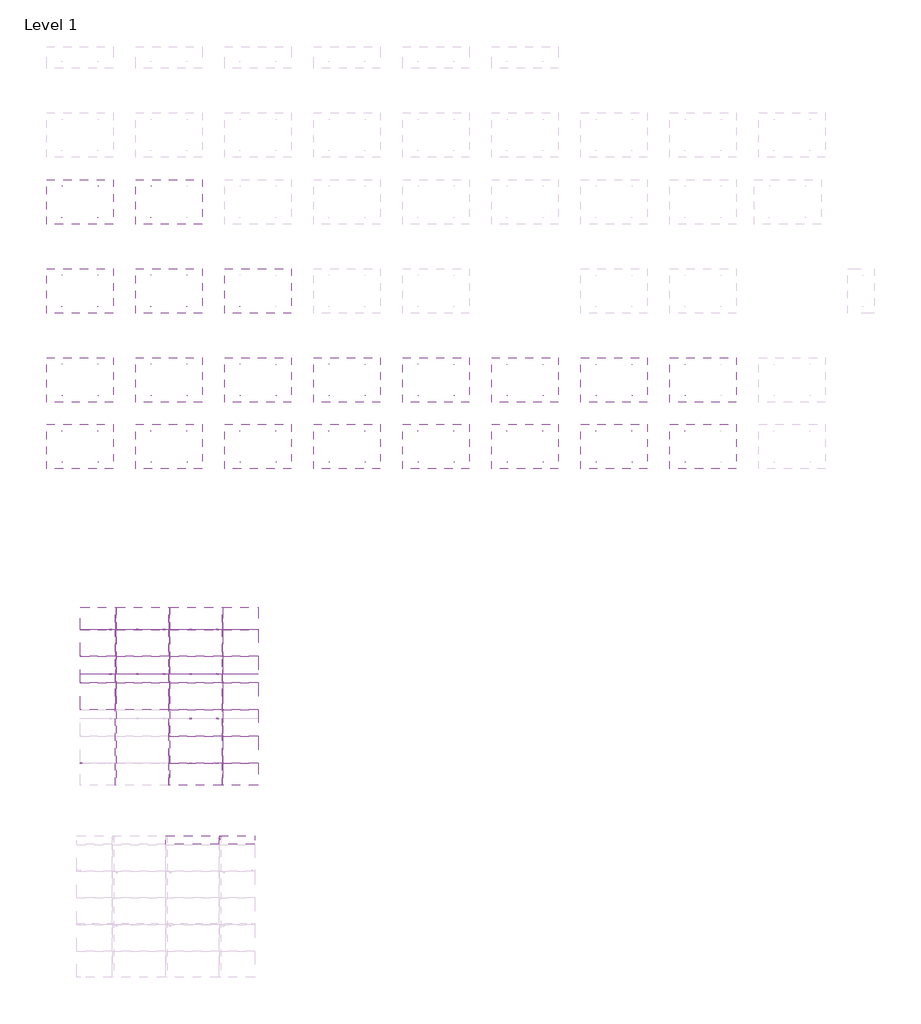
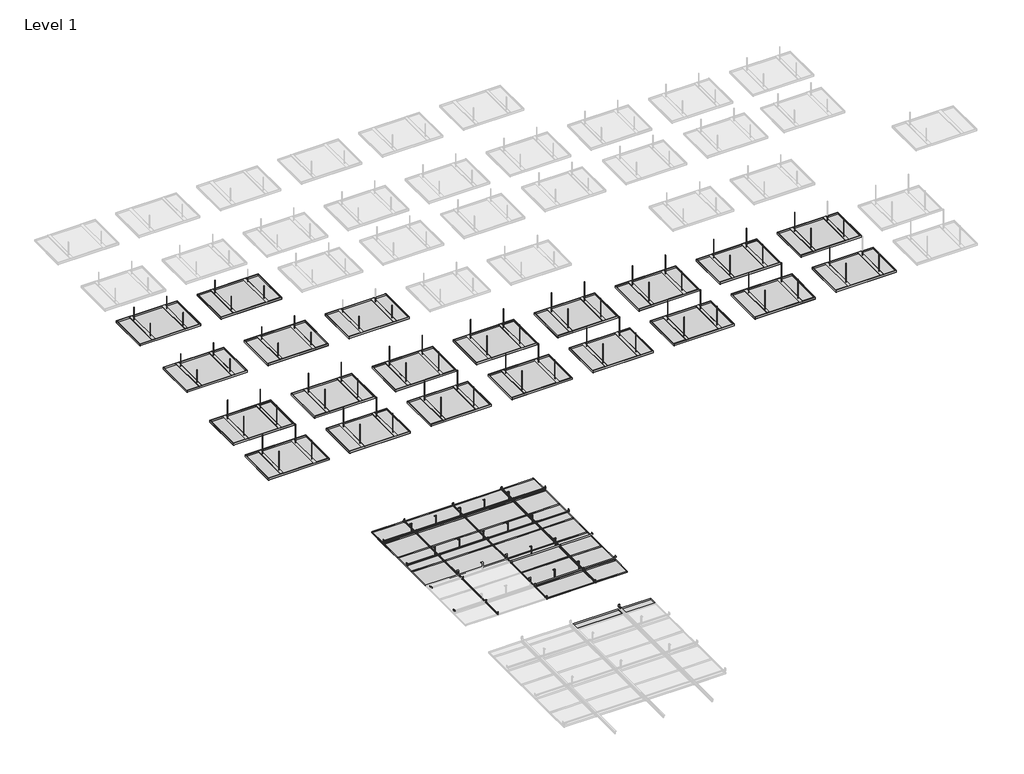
# One storey, part 16 of 32: 141 proxies.
"""IFC4 building model written with IfcOpenShell, lengths in millimetres."""

from ifc_helpers import new_model, si_unit, origin, place, context, project, spatial, transform, mapped, element, save
from components import generic_models_f96a42b3, generic_models_b01e0852, generic_models_9e26d455, generic_models_931bb0da, generic_models_4f62446b, generic_models_777941b1, generic_models_a2e92584, generic_models_f1efeb4e, generic_models_413290ff, generic_models_ee162b96, generic_models_9e18e937, generic_models_38625c8c, generic_models_85b4ffa8, generic_models_f9f24abc

model = new_model("IFC4")

# Units and contexts
model_context = context("Model", 3, world=origin())
ifc_project = project(units=[si_unit("LENGTHUNIT", "METRE", prefix="MILLI")], contexts=[model_context])

# Site, building, storey
site = spatial("IfcSite", under=ifc_project)
building = spatial("IfcBuilding", under=site)
storey = spatial("IfcBuildingStorey", under=building, Name="Level 1", Elevation=0.0)

# Proxies
placement = place(None, origin())
generic_models_shape = generic_models_f96a42b3(model_context)
element("IfcBuildingElementProxy", 1, Name="durlum_S4_panel : durlum_S4_panel_wall_width_cut", ObjectType="durlum_S4_panel : durlum_S4_panel_wall_width_cut", at=placement, inside=storey, context=model_context, shape_type="MappedRepresentation", body=[
    mapped(generic_models_shape, transform((-43697.4152168, 5018.9203868, 3700.0), x_axis=(1.0, 0.0, 0.0), y_axis=(0.0, 1.0, 0.0), z_axis=(0.0, 0.0, 1.0))),
])
generic_models_2_shape = generic_models_b01e0852(model_context)
element("IfcBuildingElementProxy", 2, Name="durlum_S4_panel : durlum_S4_panel_wall_corner", ObjectType="durlum_S4_panel : durlum_S4_panel_wall_corner", at=placement, inside=storey, context=model_context, shape_type="MappedRepresentation", body=[
    mapped(generic_models_2_shape, transform((-42697.4152168, 5018.9203868, 3700.0), x_axis=(1.0, 0.0, 0.0), y_axis=(0.0, 1.0, 0.0), z_axis=(0.0, 0.0, 1.0))),
])
generic_models_3_shape = generic_models_9e26d455(model_context)
element("IfcBuildingElementProxy", 3, Name="durlum_S1_RHOMBOS : durlum_S1_RHOMBOS", ObjectType="durlum_S1_RHOMBOS : durlum_S1_RHOMBOS", at=placement, inside=storey, context=model_context, shape_type="MappedRepresentation", body=[
    mapped(generic_models_3_shape, transform((-44221.0989201, 8249.4221747, 0.0), x_axis=(1.0, 0.0, 0.0), y_axis=(0.0, 1.0, 0.0), z_axis=(0.0, 0.0, 1.0))),
])
generic_models_4_shape = generic_models_931bb0da(model_context)
element("IfcBuildingElementProxy", 4, Name="durlum_S1_RHOMBOS_panel : durlum_S1_RHOMBOS_panel", ObjectType="durlum_S1_RHOMBOS_panel : durlum_S1_RHOMBOS_panel", at=placement, inside=storey, context=model_context, shape_type="MappedRepresentation", body=[
    mapped(generic_models_4_shape, transform((-43621.0989201, 7649.4221747, 3700.0), x_axis=(1.0, 0.0, 0.0), y_axis=(0.0, 1.0, 0.0), z_axis=(0.0, 0.0, 1.0))),
])
element("IfcBuildingElementProxy", 5, Name="durlum_S1_RHOMBOS_panel : durlum_S1_RHOMBOS_panel", ObjectType="durlum_S1_RHOMBOS_panel : durlum_S1_RHOMBOS_panel", at=placement, inside=storey, context=model_context, shape_type="MappedRepresentation", body=[
    mapped(generic_models_4_shape, transform((-44821.0989201, 8249.4221747, 3700.0), x_axis=(1.0, 0.0, 0.0), y_axis=(0.0, 1.0, 0.0), z_axis=(0.0, 0.0, 1.0))),
])
element("IfcBuildingElementProxy", 6, Name="durlum_S1_RHOMBOS_panel : durlum_S1_RHOMBOS_panel", ObjectType="durlum_S1_RHOMBOS_panel : durlum_S1_RHOMBOS_panel", at=placement, inside=storey, context=model_context, shape_type="MappedRepresentation", body=[
    mapped(generic_models_4_shape, transform((-43621.0989201, 8249.4221747, 3700.0), x_axis=(1.0, 0.0, 0.0), y_axis=(0.0, 1.0, 0.0), z_axis=(0.0, 0.0, 1.0))),
])
element("IfcBuildingElementProxy", 7, Name="durlum_S1_RHOMBOS_panel : durlum_S1_RHOMBOS_panel", ObjectType="durlum_S1_RHOMBOS_panel : durlum_S1_RHOMBOS_panel", at=placement, inside=storey, context=model_context, shape_type="MappedRepresentation", body=[
    mapped(generic_models_4_shape, transform((-44821.0989201, 8849.4221747, 3700.0), x_axis=(1.0, 0.0, 0.0), y_axis=(0.0, 1.0, 0.0), z_axis=(0.0, 0.0, 1.0))),
])
element("IfcBuildingElementProxy", 8, Name="durlum_S1_RHOMBOS_panel : durlum_S1_RHOMBOS_panel", ObjectType="durlum_S1_RHOMBOS_panel : durlum_S1_RHOMBOS_panel", at=placement, inside=storey, context=model_context, shape_type="MappedRepresentation", body=[
    mapped(generic_models_4_shape, transform((-43621.0989201, 8849.4221747, 3700.0), x_axis=(1.0, 0.0, 0.0), y_axis=(0.0, 1.0, 0.0), z_axis=(0.0, 0.0, 1.0))),
])
element("IfcBuildingElementProxy", 9, Name="durlum_S1_RHOMBOS_panel : durlum_S1_RHOMBOS_panel", ObjectType="durlum_S1_RHOMBOS_panel : durlum_S1_RHOMBOS_panel", at=placement, inside=storey, context=model_context, shape_type="MappedRepresentation", body=[
    mapped(generic_models_4_shape, transform((-43621.0989201, 7049.4221747, 3700.0), x_axis=(1.0, 0.0, 0.0), y_axis=(0.0, 1.0, 0.0), z_axis=(0.0, 0.0, 1.0))),
])
element("IfcBuildingElementProxy", 10, Name="durlum_S1_RHOMBOS_panel : durlum_S1_RHOMBOS_panel", ObjectType="durlum_S1_RHOMBOS_panel : durlum_S1_RHOMBOS_panel", at=placement, inside=storey, context=model_context, shape_type="MappedRepresentation", body=[
    mapped(generic_models_4_shape, transform((-44821.0989201, 9449.4221747, 3700.0), x_axis=(1.0, 0.0, 0.0), y_axis=(0.0, 1.0, 0.0), z_axis=(0.0, 0.0, 1.0))),
])
element("IfcBuildingElementProxy", 11, Name="durlum_S1_RHOMBOS_panel : durlum_S1_RHOMBOS_panel", ObjectType="durlum_S1_RHOMBOS_panel : durlum_S1_RHOMBOS_panel", at=placement, inside=storey, context=model_context, shape_type="MappedRepresentation", body=[
    mapped(generic_models_4_shape, transform((-43621.0989201, 9449.4221747, 3700.0), x_axis=(1.0, 0.0, 0.0), y_axis=(0.0, 1.0, 0.0), z_axis=(0.0, 0.0, 1.0))),
])
generic_models_5_shape = generic_models_4f62446b(model_context)
element("IfcBuildingElementProxy", 12, Name="durlum_S1_RHOMBOS_panel : durlum_S1_RHOMBOS_panel_wall_length_cut", ObjectType="durlum_S1_RHOMBOS_panel : durlum_S1_RHOMBOS_panel_wall_length_cut", at=placement, inside=storey, context=model_context, shape_type="MappedRepresentation", body=[
    mapped(generic_models_5_shape, transform((-42621.0989201, 7649.4221747, 3700.0), x_axis=(1.0, 0.0, 0.0), y_axis=(0.0, 1.0, 0.0), z_axis=(0.0, 0.0, 1.0))),
])
element("IfcBuildingElementProxy", 13, Name="durlum_S1_RHOMBOS_panel : durlum_S1_RHOMBOS_panel_wall_length_cut", ObjectType="durlum_S1_RHOMBOS_panel : durlum_S1_RHOMBOS_panel_wall_length_cut", at=placement, inside=storey, context=model_context, shape_type="MappedRepresentation", body=[
    mapped(generic_models_5_shape, transform((-45821.0989201, 8249.4221747, 3700.0), x_axis=(1.0, 0.0, 0.0), y_axis=(0.0, 1.0, 0.0), z_axis=(0.0, 0.0, 1.0))),
])
element("IfcBuildingElementProxy", 14, Name="durlum_S1_RHOMBOS_panel : durlum_S1_RHOMBOS_panel_wall_length_cut", ObjectType="durlum_S1_RHOMBOS_panel : durlum_S1_RHOMBOS_panel_wall_length_cut", at=placement, inside=storey, context=model_context, shape_type="MappedRepresentation", body=[
    mapped(generic_models_5_shape, transform((-42621.0989201, 8249.4221747, 3700.0), x_axis=(1.0, 0.0, 0.0), y_axis=(0.0, 1.0, 0.0), z_axis=(0.0, 0.0, 1.0))),
])
element("IfcBuildingElementProxy", 15, Name="durlum_S1_RHOMBOS_panel : durlum_S1_RHOMBOS_panel_wall_length_cut", ObjectType="durlum_S1_RHOMBOS_panel : durlum_S1_RHOMBOS_panel_wall_length_cut", at=placement, inside=storey, context=model_context, shape_type="MappedRepresentation", body=[
    mapped(generic_models_5_shape, transform((-45821.0989201, 8849.4221747, 3700.0), x_axis=(1.0, 0.0, 0.0), y_axis=(0.0, 1.0, 0.0), z_axis=(0.0, 0.0, 1.0))),
])
element("IfcBuildingElementProxy", 16, Name="durlum_S1_RHOMBOS_panel : durlum_S1_RHOMBOS_panel_wall_length_cut", ObjectType="durlum_S1_RHOMBOS_panel : durlum_S1_RHOMBOS_panel_wall_length_cut", at=placement, inside=storey, context=model_context, shape_type="MappedRepresentation", body=[
    mapped(generic_models_5_shape, transform((-42621.0989201, 8849.4221747, 3700.0), x_axis=(1.0, 0.0, 0.0), y_axis=(0.0, 1.0, 0.0), z_axis=(0.0, 0.0, 1.0))),
])
element("IfcBuildingElementProxy", 17, Name="durlum_S1_RHOMBOS_panel : durlum_S1_RHOMBOS_panel_wall_length_cut", ObjectType="durlum_S1_RHOMBOS_panel : durlum_S1_RHOMBOS_panel_wall_length_cut", at=placement, inside=storey, context=model_context, shape_type="MappedRepresentation", body=[
    mapped(generic_models_5_shape, transform((-42621.0989201, 7049.4221747, 3700.0), x_axis=(1.0, 0.0, 0.0), y_axis=(0.0, 1.0, 0.0), z_axis=(0.0, 0.0, 1.0))),
])
element("IfcBuildingElementProxy", 18, Name="durlum_S1_RHOMBOS_panel : durlum_S1_RHOMBOS_panel_wall_length_cut", ObjectType="durlum_S1_RHOMBOS_panel : durlum_S1_RHOMBOS_panel_wall_length_cut", at=placement, inside=storey, context=model_context, shape_type="MappedRepresentation", body=[
    mapped(generic_models_5_shape, transform((-42621.0989201, 9449.4221747, 3700.0), x_axis=(1.0, 0.0, 0.0), y_axis=(0.0, 1.0, 0.0), z_axis=(0.0, 0.0, 1.0))),
])
element("IfcBuildingElementProxy", 19, Name="durlum_S1_RHOMBOS_panel : durlum_S1_RHOMBOS_panel_wall_length_cut", ObjectType="durlum_S1_RHOMBOS_panel : durlum_S1_RHOMBOS_panel_wall_length_cut", at=placement, inside=storey, context=model_context, shape_type="MappedRepresentation", body=[
    mapped(generic_models_5_shape, transform((-45821.0989201, 9449.4221747, 3700.0), x_axis=(1.0, 0.0, 0.0), y_axis=(0.0, 1.0, 0.0), z_axis=(0.0, 0.0, 1.0))),
])
generic_models_6_shape = generic_models_777941b1(model_context)
element("IfcBuildingElementProxy", 20, Name="durlum_S1_RHOMBOS_panel : durlum_S1_RHOMBOS_panel_wall_width_cut", ObjectType="durlum_S1_RHOMBOS_panel : durlum_S1_RHOMBOS_panel_wall_width_cut", at=placement, inside=storey, context=model_context, shape_type="MappedRepresentation", body=[
    mapped(generic_models_6_shape, transform((-43621.0989201, 6499.4221747, 3700.0), x_axis=(1.0, 0.0, 0.0), y_axis=(0.0, 1.0, 0.0), z_axis=(0.0, 0.0, 1.0))),
])
element("IfcBuildingElementProxy", 21, Name="durlum_S1_RHOMBOS_panel : durlum_S1_RHOMBOS_panel_wall_width_cut", ObjectType="durlum_S1_RHOMBOS_panel : durlum_S1_RHOMBOS_panel_wall_width_cut", at=placement, inside=storey, context=model_context, shape_type="MappedRepresentation", body=[
    mapped(generic_models_6_shape, transform((-43621.0989201, 9999.4221747, 3700.0), x_axis=(1.0, 0.0, 0.0), y_axis=(0.0, 1.0, 0.0), z_axis=(0.0, 0.0, 1.0))),
])
element("IfcBuildingElementProxy", 22, Name="durlum_S1_RHOMBOS_panel : durlum_S1_RHOMBOS_panel_wall_width_cut", ObjectType="durlum_S1_RHOMBOS_panel : durlum_S1_RHOMBOS_panel_wall_width_cut", at=placement, inside=storey, context=model_context, shape_type="MappedRepresentation", body=[
    mapped(generic_models_6_shape, transform((-44821.0989201, 9999.4221747, 3700.0), x_axis=(1.0, 0.0, 0.0), y_axis=(0.0, 1.0, 0.0), z_axis=(0.0, 0.0, 1.0))),
])
generic_models_7_shape = generic_models_a2e92584(model_context)
element("IfcBuildingElementProxy", 23, Name="durlum_S1_RHOMBOS_panel : durlum_S1_RHOMBOS_panel_wall_corner", ObjectType="durlum_S1_RHOMBOS_panel : durlum_S1_RHOMBOS_panel_wall_corner", at=placement, inside=storey, context=model_context, shape_type="MappedRepresentation", body=[
    mapped(generic_models_7_shape, transform((-42621.0989201, 6499.4221747, 3700.0), x_axis=(1.0, 0.0, 0.0), y_axis=(0.0, 1.0, 0.0), z_axis=(0.0, 0.0, 1.0))),
])
element("IfcBuildingElementProxy", 24, Name="durlum_S1_RHOMBOS_panel : durlum_S1_RHOMBOS_panel_wall_corner", ObjectType="durlum_S1_RHOMBOS_panel : durlum_S1_RHOMBOS_panel_wall_corner", at=placement, inside=storey, context=model_context, shape_type="MappedRepresentation", body=[
    mapped(generic_models_7_shape, transform((-42621.0989201, 9999.4221747, 3700.0), x_axis=(1.0, 0.0, 0.0), y_axis=(0.0, 1.0, 0.0), z_axis=(0.0, 0.0, 1.0))),
])
element("IfcBuildingElementProxy", 25, Name="durlum_S1_RHOMBOS_panel : durlum_S1_RHOMBOS_panel_wall_corner", ObjectType="durlum_S1_RHOMBOS_panel : durlum_S1_RHOMBOS_panel_wall_corner", at=placement, inside=storey, context=model_context, shape_type="MappedRepresentation", body=[
    mapped(generic_models_7_shape, transform((-45821.0989201, 9999.4221747, 3700.0), x_axis=(1.0, 0.0, 0.0), y_axis=(0.0, 1.0, 0.0), z_axis=(0.0, 0.0, 1.0))),
])
generic_models_8_shape = generic_models_f1efeb4e(model_context)
element("IfcBuildingElementProxy", 26, Name="durlum_U1300 : durlum_U1300", ObjectType="durlum_U1300 : durlum_U1300", at=placement, inside=storey, context=model_context, shape_type="MappedRepresentation", body=[
    mapped(generic_models_8_shape, transform((-43121.0989201, 7749.4221747, 3081.9124682), x_axis=(0.0, -1.0, 0.0), y_axis=(1.0, 0.0, 0.0), z_axis=(0.0, 0.0, 1.0))),
])
element("IfcBuildingElementProxy", 27, Name="durlum_U1300 : durlum_U1300", ObjectType="durlum_U1300 : durlum_U1300", at=placement, inside=storey, context=model_context, shape_type="MappedRepresentation", body=[
    mapped(generic_models_8_shape, transform((-43721.0989201, 7749.4221747, 3081.9124682), x_axis=(0.0, -1.0, 0.0), y_axis=(1.0, 0.0, 0.0), z_axis=(0.0, 0.0, 1.0))),
])
element("IfcBuildingElementProxy", 28, Name="durlum_U1300 : durlum_U1300", ObjectType="durlum_U1300 : durlum_U1300", at=placement, inside=storey, context=model_context, shape_type="MappedRepresentation", body=[
    mapped(generic_models_8_shape, transform((-43121.0989201, 8749.4221747, 3081.9124682), x_axis=(0.0, -1.0, 0.0), y_axis=(1.0, 0.0, 0.0), z_axis=(0.0, 0.0, 1.0))),
])
element("IfcBuildingElementProxy", 29, Name="durlum_U1300 : durlum_U1300", ObjectType="durlum_U1300 : durlum_U1300", at=placement, inside=storey, context=model_context, shape_type="MappedRepresentation", body=[
    mapped(generic_models_8_shape, transform((-45521.0989201, 8749.4221747, 3081.9124682), x_axis=(0.0, -1.0, 0.0), y_axis=(1.0, 0.0, 0.0), z_axis=(0.0, 0.0, 1.0))),
])
element("IfcBuildingElementProxy", 30, Name="durlum_U1300 : durlum_U1300", ObjectType="durlum_U1300 : durlum_U1300", at=placement, inside=storey, context=model_context, shape_type="MappedRepresentation", body=[
    mapped(generic_models_8_shape, transform((-43721.0989201, 8749.4221747, 3081.9124682), x_axis=(0.0, -1.0, 0.0), y_axis=(1.0, 0.0, 0.0), z_axis=(0.0, 0.0, 1.0))),
])
element("IfcBuildingElementProxy", 31, Name="durlum_U1300 : durlum_U1300", ObjectType="durlum_U1300 : durlum_U1300", at=placement, inside=storey, context=model_context, shape_type="MappedRepresentation", body=[
    mapped(generic_models_8_shape, transform((-44321.0989201, 8749.4221747, 3081.9124682), x_axis=(0.0, -1.0, 0.0), y_axis=(1.0, 0.0, 0.0), z_axis=(0.0, 0.0, 1.0))),
])
element("IfcBuildingElementProxy", 32, Name="durlum_U1300 : durlum_U1300", ObjectType="durlum_U1300 : durlum_U1300", at=placement, inside=storey, context=model_context, shape_type="MappedRepresentation", body=[
    mapped(generic_models_8_shape, transform((-44921.0989201, 8749.4221747, 3081.9124682), x_axis=(0.0, -1.0, 0.0), y_axis=(1.0, 0.0, 0.0), z_axis=(0.0, 0.0, 1.0))),
])
element("IfcBuildingElementProxy", 33, Name="durlum_U1300 : durlum_U1300", ObjectType="durlum_U1300 : durlum_U1300", at=placement, inside=storey, context=model_context, shape_type="MappedRepresentation", body=[
    mapped(generic_models_8_shape, transform((-43121.0989201, 6749.4221747, 3081.9124682), x_axis=(0.0, -1.0, 0.0), y_axis=(1.0, 0.0, 0.0), z_axis=(0.0, 0.0, 1.0))),
])
element("IfcBuildingElementProxy", 34, Name="durlum_U1300 : durlum_U1300", ObjectType="durlum_U1300 : durlum_U1300", at=placement, inside=storey, context=model_context, shape_type="MappedRepresentation", body=[
    mapped(generic_models_8_shape, transform((-43721.0989201, 6749.4221747, 3081.9124682), x_axis=(0.0, -1.0, 0.0), y_axis=(1.0, 0.0, 0.0), z_axis=(0.0, 0.0, 1.0))),
])
element("IfcBuildingElementProxy", 35, Name="durlum_U1300 : durlum_U1300", ObjectType="durlum_U1300 : durlum_U1300", at=placement, inside=storey, context=model_context, shape_type="MappedRepresentation", body=[
    mapped(generic_models_8_shape, transform((-43121.0989201, 9749.4221747, 3081.9124682), x_axis=(0.0, -1.0, 0.0), y_axis=(1.0, 0.0, 0.0), z_axis=(0.0, 0.0, 1.0))),
])
element("IfcBuildingElementProxy", 36, Name="durlum_U1300 : durlum_U1300", ObjectType="durlum_U1300 : durlum_U1300", at=placement, inside=storey, context=model_context, shape_type="MappedRepresentation", body=[
    mapped(generic_models_8_shape, transform((-45521.0989201, 9749.4221747, 3081.9124682), x_axis=(0.0, -1.0, 0.0), y_axis=(1.0, 0.0, 0.0), z_axis=(0.0, 0.0, 1.0))),
])
element("IfcBuildingElementProxy", 37, Name="durlum_U1300 : durlum_U1300", ObjectType="durlum_U1300 : durlum_U1300", at=placement, inside=storey, context=model_context, shape_type="MappedRepresentation", body=[
    mapped(generic_models_8_shape, transform((-43721.0989201, 9749.4221747, 3081.9124682), x_axis=(0.0, -1.0, 0.0), y_axis=(1.0, 0.0, 0.0), z_axis=(0.0, 0.0, 1.0))),
])
element("IfcBuildingElementProxy", 38, Name="durlum_U1300 : durlum_U1300", ObjectType="durlum_U1300 : durlum_U1300", at=placement, inside=storey, context=model_context, shape_type="MappedRepresentation", body=[
    mapped(generic_models_8_shape, transform((-44321.0989201, 9749.4221747, 3081.9124682), x_axis=(0.0, -1.0, 0.0), y_axis=(1.0, 0.0, 0.0), z_axis=(0.0, 0.0, 1.0))),
])
element("IfcBuildingElementProxy", 39, Name="durlum_U1300 : durlum_U1300", ObjectType="durlum_U1300 : durlum_U1300", at=placement, inside=storey, context=model_context, shape_type="MappedRepresentation", body=[
    mapped(generic_models_8_shape, transform((-44921.0989201, 9749.4221747, 3081.9124682), x_axis=(0.0, -1.0, 0.0), y_axis=(1.0, 0.0, 0.0), z_axis=(0.0, 0.0, 1.0))),
])
generic_models_9_shape = generic_models_413290ff(model_context)
element("IfcBuildingElementProxy", 40, Name="durlum_threaded_rod_M6 : durlum_threaded_rod_M6", ObjectType="durlum_threaded_rod_M6 : durlum_threaded_rod_M6", at=placement, inside=storey, context=model_context, shape_type="MappedRepresentation", body=[
    mapped(generic_models_9_shape, transform((-45821.531136, 15008.7392516, 3506.9628151), x_axis=(0.0, -1.0, 0.0), y_axis=(1.0, 0.0, 0.0), z_axis=(0.0, 0.0, 1.0))),
])
element("IfcBuildingElementProxy", 41, Name="durlum_threaded_rod_M6 : durlum_threaded_rod_M6", ObjectType="durlum_threaded_rod_M6 : durlum_threaded_rod_M6", at=placement, inside=storey, context=model_context, shape_type="MappedRepresentation", body=[
    mapped(generic_models_9_shape, transform((-45821.531136, 15708.7392516, 3506.9628151), x_axis=(0.0, -1.0, 0.0), y_axis=(1.0, 0.0, 0.0), z_axis=(0.0, 0.0, 1.0))),
])
element("IfcBuildingElementProxy", 42, Name="durlum_threaded_rod_M6 : durlum_threaded_rod_M6", ObjectType="durlum_threaded_rod_M6 : durlum_threaded_rod_M6", at=placement, inside=storey, context=model_context, shape_type="MappedRepresentation", body=[
    mapped(generic_models_9_shape, transform((-46631.531136, 15008.7392516, 3506.9628151), x_axis=(0.0, -1.0, 0.0), y_axis=(1.0, 0.0, 0.0), z_axis=(0.0, 0.0, 1.0))),
])
element("IfcBuildingElementProxy", 43, Name="durlum_threaded_rod_M6 : durlum_threaded_rod_M6", ObjectType="durlum_threaded_rod_M6 : durlum_threaded_rod_M6", at=placement, inside=storey, context=model_context, shape_type="MappedRepresentation", body=[
    mapped(generic_models_9_shape, transform((-46631.531136, 15708.7392516, 3506.9628151), x_axis=(0.0, -1.0, 0.0), y_axis=(1.0, 0.0, 0.0), z_axis=(0.0, 0.0, 1.0))),
])
element("IfcBuildingElementProxy", 44, Name="durlum_threaded_rod_M6 : durlum_threaded_rod_M6", ObjectType="durlum_threaded_rod_M6 : durlum_threaded_rod_M6", at=placement, inside=storey, context=model_context, shape_type="MappedRepresentation", body=[
    mapped(generic_models_9_shape, transform((-43821.531136, 15008.7392516, 3506.9628151), x_axis=(0.0, -1.0, 0.0), y_axis=(1.0, 0.0, 0.0), z_axis=(0.0, 0.0, 1.0))),
])
element("IfcBuildingElementProxy", 45, Name="durlum_threaded_rod_M6 : durlum_threaded_rod_M6", ObjectType="durlum_threaded_rod_M6 : durlum_threaded_rod_M6", at=placement, inside=storey, context=model_context, shape_type="MappedRepresentation", body=[
    mapped(generic_models_9_shape, transform((-43821.531136, 15708.7392516, 3506.9628151), x_axis=(0.0, -1.0, 0.0), y_axis=(1.0, 0.0, 0.0), z_axis=(0.0, 0.0, 1.0))),
])
element("IfcBuildingElementProxy", 46, Name="durlum_threaded_rod_M6 : durlum_threaded_rod_M6", ObjectType="durlum_threaded_rod_M6 : durlum_threaded_rod_M6", at=placement, inside=storey, context=model_context, shape_type="MappedRepresentation", body=[
    mapped(generic_models_9_shape, transform((-44631.531136, 15008.7392516, 3506.9628151), x_axis=(0.0, -1.0, 0.0), y_axis=(1.0, 0.0, 0.0), z_axis=(0.0, 0.0, 1.0))),
])
element("IfcBuildingElementProxy", 47, Name="durlum_threaded_rod_M6 : durlum_threaded_rod_M6", ObjectType="durlum_threaded_rod_M6 : durlum_threaded_rod_M6", at=placement, inside=storey, context=model_context, shape_type="MappedRepresentation", body=[
    mapped(generic_models_9_shape, transform((-44631.531136, 15708.7392516, 3506.9628151), x_axis=(0.0, -1.0, 0.0), y_axis=(1.0, 0.0, 0.0), z_axis=(0.0, 0.0, 1.0))),
])
element("IfcBuildingElementProxy", 48, Name="durlum_threaded_rod_M6 : durlum_threaded_rod_M6", ObjectType="durlum_threaded_rod_M6 : durlum_threaded_rod_M6", at=placement, inside=storey, context=model_context, shape_type="MappedRepresentation", body=[
    mapped(generic_models_9_shape, transform((-41821.531136, 15008.7392516, 3506.9628151), x_axis=(0.0, -1.0, 0.0), y_axis=(1.0, 0.0, 0.0), z_axis=(0.0, 0.0, 1.0))),
])
element("IfcBuildingElementProxy", 49, Name="durlum_threaded_rod_M6 : durlum_threaded_rod_M6", ObjectType="durlum_threaded_rod_M6 : durlum_threaded_rod_M6", at=placement, inside=storey, context=model_context, shape_type="MappedRepresentation", body=[
    mapped(generic_models_9_shape, transform((-41821.531136, 15708.7392516, 3506.9628151), x_axis=(0.0, -1.0, 0.0), y_axis=(1.0, 0.0, 0.0), z_axis=(0.0, 0.0, 1.0))),
])
element("IfcBuildingElementProxy", 50, Name="durlum_threaded_rod_M6 : durlum_threaded_rod_M6", ObjectType="durlum_threaded_rod_M6 : durlum_threaded_rod_M6", at=placement, inside=storey, context=model_context, shape_type="MappedRepresentation", body=[
    mapped(generic_models_9_shape, transform((-42631.531136, 15008.7392516, 3506.9628151), x_axis=(0.0, -1.0, 0.0), y_axis=(1.0, 0.0, 0.0), z_axis=(0.0, 0.0, 1.0))),
])
element("IfcBuildingElementProxy", 51, Name="durlum_threaded_rod_M6 : durlum_threaded_rod_M6", ObjectType="durlum_threaded_rod_M6 : durlum_threaded_rod_M6", at=placement, inside=storey, context=model_context, shape_type="MappedRepresentation", body=[
    mapped(generic_models_9_shape, transform((-42631.531136, 15708.7392516, 3506.9628151), x_axis=(0.0, -1.0, 0.0), y_axis=(1.0, 0.0, 0.0), z_axis=(0.0, 0.0, 1.0))),
])
element("IfcBuildingElementProxy", 52, Name="durlum_threaded_rod_M6 : durlum_threaded_rod_M6", ObjectType="durlum_threaded_rod_M6 : durlum_threaded_rod_M6", at=placement, inside=storey, context=model_context, shape_type="MappedRepresentation", body=[
    mapped(generic_models_9_shape, transform((-39821.531136, 15008.7392516, 3506.9628151), x_axis=(0.0, -1.0, 0.0), y_axis=(1.0, 0.0, 0.0), z_axis=(0.0, 0.0, 1.0))),
])
element("IfcBuildingElementProxy", 53, Name="durlum_threaded_rod_M6 : durlum_threaded_rod_M6", ObjectType="durlum_threaded_rod_M6 : durlum_threaded_rod_M6", at=placement, inside=storey, context=model_context, shape_type="MappedRepresentation", body=[
    mapped(generic_models_9_shape, transform((-39821.531136, 15708.7392516, 3506.9628151), x_axis=(0.0, -1.0, 0.0), y_axis=(1.0, 0.0, 0.0), z_axis=(0.0, 0.0, 1.0))),
])
element("IfcBuildingElementProxy", 54, Name="durlum_threaded_rod_M6 : durlum_threaded_rod_M6", ObjectType="durlum_threaded_rod_M6 : durlum_threaded_rod_M6", at=placement, inside=storey, context=model_context, shape_type="MappedRepresentation", body=[
    mapped(generic_models_9_shape, transform((-40631.531136, 15008.7392516, 3506.9628151), x_axis=(0.0, -1.0, 0.0), y_axis=(1.0, 0.0, 0.0), z_axis=(0.0, 0.0, 1.0))),
])
element("IfcBuildingElementProxy", 55, Name="durlum_threaded_rod_M6 : durlum_threaded_rod_M6", ObjectType="durlum_threaded_rod_M6 : durlum_threaded_rod_M6", at=placement, inside=storey, context=model_context, shape_type="MappedRepresentation", body=[
    mapped(generic_models_9_shape, transform((-40631.531136, 15708.7392516, 3506.9628151), x_axis=(0.0, -1.0, 0.0), y_axis=(1.0, 0.0, 0.0), z_axis=(0.0, 0.0, 1.0))),
])
element("IfcBuildingElementProxy", 56, Name="durlum_threaded_rod_M6 : durlum_threaded_rod_M6", ObjectType="durlum_threaded_rod_M6 : durlum_threaded_rod_M6", at=placement, inside=storey, context=model_context, shape_type="MappedRepresentation", body=[
    mapped(generic_models_9_shape, transform((-37821.531136, 15008.7392516, 3506.9628151), x_axis=(0.0, -1.0, 0.0), y_axis=(1.0, 0.0, 0.0), z_axis=(0.0, 0.0, 1.0))),
])
element("IfcBuildingElementProxy", 57, Name="durlum_threaded_rod_M6 : durlum_threaded_rod_M6", ObjectType="durlum_threaded_rod_M6 : durlum_threaded_rod_M6", at=placement, inside=storey, context=model_context, shape_type="MappedRepresentation", body=[
    mapped(generic_models_9_shape, transform((-37821.531136, 15708.7392516, 3506.9628151), x_axis=(0.0, -1.0, 0.0), y_axis=(1.0, 0.0, 0.0), z_axis=(0.0, 0.0, 1.0))),
])
element("IfcBuildingElementProxy", 58, Name="durlum_threaded_rod_M6 : durlum_threaded_rod_M6", ObjectType="durlum_threaded_rod_M6 : durlum_threaded_rod_M6", at=placement, inside=storey, context=model_context, shape_type="MappedRepresentation", body=[
    mapped(generic_models_9_shape, transform((-38631.531136, 15008.7392516, 3506.9628151), x_axis=(0.0, -1.0, 0.0), y_axis=(1.0, 0.0, 0.0), z_axis=(0.0, 0.0, 1.0))),
])
element("IfcBuildingElementProxy", 59, Name="durlum_threaded_rod_M6 : durlum_threaded_rod_M6", ObjectType="durlum_threaded_rod_M6 : durlum_threaded_rod_M6", at=placement, inside=storey, context=model_context, shape_type="MappedRepresentation", body=[
    mapped(generic_models_9_shape, transform((-38631.531136, 15708.7392516, 3506.9628151), x_axis=(0.0, -1.0, 0.0), y_axis=(1.0, 0.0, 0.0), z_axis=(0.0, 0.0, 1.0))),
])
element("IfcBuildingElementProxy", 60, Name="durlum_threaded_rod_M6 : durlum_threaded_rod_M6", ObjectType="durlum_threaded_rod_M6 : durlum_threaded_rod_M6", at=placement, inside=storey, context=model_context, shape_type="MappedRepresentation", body=[
    mapped(generic_models_9_shape, transform((-35821.531136, 15008.7392516, 3506.9628151), x_axis=(0.0, -1.0, 0.0), y_axis=(1.0, 0.0, 0.0), z_axis=(0.0, 0.0, 1.0))),
])
element("IfcBuildingElementProxy", 61, Name="durlum_threaded_rod_M6 : durlum_threaded_rod_M6", ObjectType="durlum_threaded_rod_M6 : durlum_threaded_rod_M6", at=placement, inside=storey, context=model_context, shape_type="MappedRepresentation", body=[
    mapped(generic_models_9_shape, transform((-35821.531136, 15708.7392516, 3506.9628151), x_axis=(0.0, -1.0, 0.0), y_axis=(1.0, 0.0, 0.0), z_axis=(0.0, 0.0, 1.0))),
])
element("IfcBuildingElementProxy", 62, Name="durlum_threaded_rod_M6 : durlum_threaded_rod_M6", ObjectType="durlum_threaded_rod_M6 : durlum_threaded_rod_M6", at=placement, inside=storey, context=model_context, shape_type="MappedRepresentation", body=[
    mapped(generic_models_9_shape, transform((-36631.531136, 15008.7392516, 3506.9628151), x_axis=(0.0, -1.0, 0.0), y_axis=(1.0, 0.0, 0.0), z_axis=(0.0, 0.0, 1.0))),
])
element("IfcBuildingElementProxy", 63, Name="durlum_threaded_rod_M6 : durlum_threaded_rod_M6", ObjectType="durlum_threaded_rod_M6 : durlum_threaded_rod_M6", at=placement, inside=storey, context=model_context, shape_type="MappedRepresentation", body=[
    mapped(generic_models_9_shape, transform((-36631.531136, 15708.7392516, 3506.9628151), x_axis=(0.0, -1.0, 0.0), y_axis=(1.0, 0.0, 0.0), z_axis=(0.0, 0.0, 1.0))),
])
element("IfcBuildingElementProxy", 64, Name="durlum_threaded_rod_M6 : durlum_threaded_rod_M6", ObjectType="durlum_threaded_rod_M6 : durlum_threaded_rod_M6", at=placement, inside=storey, context=model_context, shape_type="MappedRepresentation", body=[
    mapped(generic_models_9_shape, transform((-33821.531136, 15008.7392516, 3506.9628151), x_axis=(0.0, -1.0, 0.0), y_axis=(1.0, 0.0, 0.0), z_axis=(0.0, 0.0, 1.0))),
])
element("IfcBuildingElementProxy", 65, Name="durlum_threaded_rod_M6 : durlum_threaded_rod_M6", ObjectType="durlum_threaded_rod_M6 : durlum_threaded_rod_M6", at=placement, inside=storey, context=model_context, shape_type="MappedRepresentation", body=[
    mapped(generic_models_9_shape, transform((-33821.531136, 15708.7392516, 3506.9628151), x_axis=(0.0, -1.0, 0.0), y_axis=(1.0, 0.0, 0.0), z_axis=(0.0, 0.0, 1.0))),
])
element("IfcBuildingElementProxy", 66, Name="durlum_threaded_rod_M6 : durlum_threaded_rod_M6", ObjectType="durlum_threaded_rod_M6 : durlum_threaded_rod_M6", at=placement, inside=storey, context=model_context, shape_type="MappedRepresentation", body=[
    mapped(generic_models_9_shape, transform((-34631.531136, 15008.7392516, 3506.9628151), x_axis=(0.0, -1.0, 0.0), y_axis=(1.0, 0.0, 0.0), z_axis=(0.0, 0.0, 1.0))),
])
element("IfcBuildingElementProxy", 67, Name="durlum_threaded_rod_M6 : durlum_threaded_rod_M6", ObjectType="durlum_threaded_rod_M6 : durlum_threaded_rod_M6", at=placement, inside=storey, context=model_context, shape_type="MappedRepresentation", body=[
    mapped(generic_models_9_shape, transform((-34631.531136, 15708.7392516, 3506.9628151), x_axis=(0.0, -1.0, 0.0), y_axis=(1.0, 0.0, 0.0), z_axis=(0.0, 0.0, 1.0))),
])
element("IfcBuildingElementProxy", 68, Name="durlum_threaded_rod_M6 : durlum_threaded_rod_M6", ObjectType="durlum_threaded_rod_M6 : durlum_threaded_rod_M6", at=placement, inside=storey, context=model_context, shape_type="MappedRepresentation", body=[
    mapped(generic_models_9_shape, transform((-32631.531136, 15008.7392516, 3506.9628151), x_axis=(0.0, -1.0, 0.0), y_axis=(1.0, 0.0, 0.0), z_axis=(0.0, 0.0, 1.0))),
])
element("IfcBuildingElementProxy", 69, Name="durlum_threaded_rod_M6 : durlum_threaded_rod_M6", ObjectType="durlum_threaded_rod_M6 : durlum_threaded_rod_M6", at=placement, inside=storey, context=model_context, shape_type="MappedRepresentation", body=[
    mapped(generic_models_9_shape, transform((-32631.531136, 15708.7392516, 3506.9628151), x_axis=(0.0, -1.0, 0.0), y_axis=(1.0, 0.0, 0.0), z_axis=(0.0, 0.0, 1.0))),
])
element("IfcBuildingElementProxy", 70, Name="durlum_threaded_rod_M6 : durlum_threaded_rod_M6", ObjectType="durlum_threaded_rod_M6 : durlum_threaded_rod_M6", at=placement, inside=storey, context=model_context, shape_type="MappedRepresentation", body=[
    mapped(generic_models_9_shape, transform((-45821.531136, 13508.7392516, 3506.9628151), x_axis=(0.0, -1.0, 0.0), y_axis=(1.0, 0.0, 0.0), z_axis=(0.0, 0.0, 1.0))),
])
element("IfcBuildingElementProxy", 71, Name="durlum_threaded_rod_M6 : durlum_threaded_rod_M6", ObjectType="durlum_threaded_rod_M6 : durlum_threaded_rod_M6", at=placement, inside=storey, context=model_context, shape_type="MappedRepresentation", body=[
    mapped(generic_models_9_shape, transform((-45821.531136, 14208.7392516, 3506.9628151), x_axis=(0.0, -1.0, 0.0), y_axis=(1.0, 0.0, 0.0), z_axis=(0.0, 0.0, 1.0))),
])
element("IfcBuildingElementProxy", 72, Name="durlum_threaded_rod_M6 : durlum_threaded_rod_M6", ObjectType="durlum_threaded_rod_M6 : durlum_threaded_rod_M6", at=placement, inside=storey, context=model_context, shape_type="MappedRepresentation", body=[
    mapped(generic_models_9_shape, transform((-46631.531136, 13508.7392516, 3506.9628151), x_axis=(0.0, -1.0, 0.0), y_axis=(1.0, 0.0, 0.0), z_axis=(0.0, 0.0, 1.0))),
])
element("IfcBuildingElementProxy", 73, Name="durlum_threaded_rod_M6 : durlum_threaded_rod_M6", ObjectType="durlum_threaded_rod_M6 : durlum_threaded_rod_M6", at=placement, inside=storey, context=model_context, shape_type="MappedRepresentation", body=[
    mapped(generic_models_9_shape, transform((-46631.531136, 14208.7392516, 3506.9628151), x_axis=(0.0, -1.0, 0.0), y_axis=(1.0, 0.0, 0.0), z_axis=(0.0, 0.0, 1.0))),
])
element("IfcBuildingElementProxy", 74, Name="durlum_threaded_rod_M6 : durlum_threaded_rod_M6", ObjectType="durlum_threaded_rod_M6 : durlum_threaded_rod_M6", at=placement, inside=storey, context=model_context, shape_type="MappedRepresentation", body=[
    mapped(generic_models_9_shape, transform((-43821.531136, 13508.7392516, 3506.9628151), x_axis=(0.0, -1.0, 0.0), y_axis=(1.0, 0.0, 0.0), z_axis=(0.0, 0.0, 1.0))),
])
element("IfcBuildingElementProxy", 75, Name="durlum_threaded_rod_M6 : durlum_threaded_rod_M6", ObjectType="durlum_threaded_rod_M6 : durlum_threaded_rod_M6", at=placement, inside=storey, context=model_context, shape_type="MappedRepresentation", body=[
    mapped(generic_models_9_shape, transform((-43821.531136, 14208.7392516, 3506.9628151), x_axis=(0.0, -1.0, 0.0), y_axis=(1.0, 0.0, 0.0), z_axis=(0.0, 0.0, 1.0))),
])
element("IfcBuildingElementProxy", 76, Name="durlum_threaded_rod_M6 : durlum_threaded_rod_M6", ObjectType="durlum_threaded_rod_M6 : durlum_threaded_rod_M6", at=placement, inside=storey, context=model_context, shape_type="MappedRepresentation", body=[
    mapped(generic_models_9_shape, transform((-44631.531136, 13508.7392516, 3506.9628151), x_axis=(0.0, -1.0, 0.0), y_axis=(1.0, 0.0, 0.0), z_axis=(0.0, 0.0, 1.0))),
])
element("IfcBuildingElementProxy", 77, Name="durlum_threaded_rod_M6 : durlum_threaded_rod_M6", ObjectType="durlum_threaded_rod_M6 : durlum_threaded_rod_M6", at=placement, inside=storey, context=model_context, shape_type="MappedRepresentation", body=[
    mapped(generic_models_9_shape, transform((-44631.531136, 14208.7392516, 3506.9628151), x_axis=(0.0, -1.0, 0.0), y_axis=(1.0, 0.0, 0.0), z_axis=(0.0, 0.0, 1.0))),
])
element("IfcBuildingElementProxy", 78, Name="durlum_threaded_rod_M6 : durlum_threaded_rod_M6", ObjectType="durlum_threaded_rod_M6 : durlum_threaded_rod_M6", at=placement, inside=storey, context=model_context, shape_type="MappedRepresentation", body=[
    mapped(generic_models_9_shape, transform((-41821.531136, 13508.7392516, 3506.9628151), x_axis=(0.0, -1.0, 0.0), y_axis=(1.0, 0.0, 0.0), z_axis=(0.0, 0.0, 1.0))),
])
element("IfcBuildingElementProxy", 79, Name="durlum_threaded_rod_M6 : durlum_threaded_rod_M6", ObjectType="durlum_threaded_rod_M6 : durlum_threaded_rod_M6", at=placement, inside=storey, context=model_context, shape_type="MappedRepresentation", body=[
    mapped(generic_models_9_shape, transform((-41821.531136, 14208.7392516, 3506.9628151), x_axis=(0.0, -1.0, 0.0), y_axis=(1.0, 0.0, 0.0), z_axis=(0.0, 0.0, 1.0))),
])
element("IfcBuildingElementProxy", 80, Name="durlum_threaded_rod_M6 : durlum_threaded_rod_M6", ObjectType="durlum_threaded_rod_M6 : durlum_threaded_rod_M6", at=placement, inside=storey, context=model_context, shape_type="MappedRepresentation", body=[
    mapped(generic_models_9_shape, transform((-42631.531136, 13508.7392516, 3506.9628151), x_axis=(0.0, -1.0, 0.0), y_axis=(1.0, 0.0, 0.0), z_axis=(0.0, 0.0, 1.0))),
])
element("IfcBuildingElementProxy", 81, Name="durlum_threaded_rod_M6 : durlum_threaded_rod_M6", ObjectType="durlum_threaded_rod_M6 : durlum_threaded_rod_M6", at=placement, inside=storey, context=model_context, shape_type="MappedRepresentation", body=[
    mapped(generic_models_9_shape, transform((-42631.531136, 14208.7392516, 3506.9628151), x_axis=(0.0, -1.0, 0.0), y_axis=(1.0, 0.0, 0.0), z_axis=(0.0, 0.0, 1.0))),
])
element("IfcBuildingElementProxy", 82, Name="durlum_threaded_rod_M6 : durlum_threaded_rod_M6", ObjectType="durlum_threaded_rod_M6 : durlum_threaded_rod_M6", at=placement, inside=storey, context=model_context, shape_type="MappedRepresentation", body=[
    mapped(generic_models_9_shape, transform((-39821.531136, 13508.7392516, 3506.9628151), x_axis=(0.0, -1.0, 0.0), y_axis=(1.0, 0.0, 0.0), z_axis=(0.0, 0.0, 1.0))),
])
element("IfcBuildingElementProxy", 83, Name="durlum_threaded_rod_M6 : durlum_threaded_rod_M6", ObjectType="durlum_threaded_rod_M6 : durlum_threaded_rod_M6", at=placement, inside=storey, context=model_context, shape_type="MappedRepresentation", body=[
    mapped(generic_models_9_shape, transform((-39821.531136, 14208.7392516, 3506.9628151), x_axis=(0.0, -1.0, 0.0), y_axis=(1.0, 0.0, 0.0), z_axis=(0.0, 0.0, 1.0))),
])
element("IfcBuildingElementProxy", 84, Name="durlum_threaded_rod_M6 : durlum_threaded_rod_M6", ObjectType="durlum_threaded_rod_M6 : durlum_threaded_rod_M6", at=placement, inside=storey, context=model_context, shape_type="MappedRepresentation", body=[
    mapped(generic_models_9_shape, transform((-40631.531136, 13508.7392516, 3506.9628151), x_axis=(0.0, -1.0, 0.0), y_axis=(1.0, 0.0, 0.0), z_axis=(0.0, 0.0, 1.0))),
])
element("IfcBuildingElementProxy", 85, Name="durlum_threaded_rod_M6 : durlum_threaded_rod_M6", ObjectType="durlum_threaded_rod_M6 : durlum_threaded_rod_M6", at=placement, inside=storey, context=model_context, shape_type="MappedRepresentation", body=[
    mapped(generic_models_9_shape, transform((-40631.531136, 14208.7392516, 3506.9628151), x_axis=(0.0, -1.0, 0.0), y_axis=(1.0, 0.0, 0.0), z_axis=(0.0, 0.0, 1.0))),
])
element("IfcBuildingElementProxy", 86, Name="durlum_threaded_rod_M6 : durlum_threaded_rod_M6", ObjectType="durlum_threaded_rod_M6 : durlum_threaded_rod_M6", at=placement, inside=storey, context=model_context, shape_type="MappedRepresentation", body=[
    mapped(generic_models_9_shape, transform((-37821.531136, 13508.7392516, 3506.9628151), x_axis=(0.0, -1.0, 0.0), y_axis=(1.0, 0.0, 0.0), z_axis=(0.0, 0.0, 1.0))),
])
element("IfcBuildingElementProxy", 87, Name="durlum_threaded_rod_M6 : durlum_threaded_rod_M6", ObjectType="durlum_threaded_rod_M6 : durlum_threaded_rod_M6", at=placement, inside=storey, context=model_context, shape_type="MappedRepresentation", body=[
    mapped(generic_models_9_shape, transform((-37821.531136, 14208.7392516, 3506.9628151), x_axis=(0.0, -1.0, 0.0), y_axis=(1.0, 0.0, 0.0), z_axis=(0.0, 0.0, 1.0))),
])
element("IfcBuildingElementProxy", 88, Name="durlum_threaded_rod_M6 : durlum_threaded_rod_M6", ObjectType="durlum_threaded_rod_M6 : durlum_threaded_rod_M6", at=placement, inside=storey, context=model_context, shape_type="MappedRepresentation", body=[
    mapped(generic_models_9_shape, transform((-38631.531136, 13508.7392516, 3506.9628151), x_axis=(0.0, -1.0, 0.0), y_axis=(1.0, 0.0, 0.0), z_axis=(0.0, 0.0, 1.0))),
])
element("IfcBuildingElementProxy", 89, Name="durlum_threaded_rod_M6 : durlum_threaded_rod_M6", ObjectType="durlum_threaded_rod_M6 : durlum_threaded_rod_M6", at=placement, inside=storey, context=model_context, shape_type="MappedRepresentation", body=[
    mapped(generic_models_9_shape, transform((-38631.531136, 14208.7392516, 3506.9628151), x_axis=(0.0, -1.0, 0.0), y_axis=(1.0, 0.0, 0.0), z_axis=(0.0, 0.0, 1.0))),
])
element("IfcBuildingElementProxy", 90, Name="durlum_threaded_rod_M6 : durlum_threaded_rod_M6", ObjectType="durlum_threaded_rod_M6 : durlum_threaded_rod_M6", at=placement, inside=storey, context=model_context, shape_type="MappedRepresentation", body=[
    mapped(generic_models_9_shape, transform((-35821.531136, 13508.7392516, 3506.9628151), x_axis=(0.0, -1.0, 0.0), y_axis=(1.0, 0.0, 0.0), z_axis=(0.0, 0.0, 1.0))),
])
element("IfcBuildingElementProxy", 91, Name="durlum_threaded_rod_M6 : durlum_threaded_rod_M6", ObjectType="durlum_threaded_rod_M6 : durlum_threaded_rod_M6", at=placement, inside=storey, context=model_context, shape_type="MappedRepresentation", body=[
    mapped(generic_models_9_shape, transform((-35821.531136, 14208.7392516, 3506.9628151), x_axis=(0.0, -1.0, 0.0), y_axis=(1.0, 0.0, 0.0), z_axis=(0.0, 0.0, 1.0))),
])
element("IfcBuildingElementProxy", 92, Name="durlum_threaded_rod_M6 : durlum_threaded_rod_M6", ObjectType="durlum_threaded_rod_M6 : durlum_threaded_rod_M6", at=placement, inside=storey, context=model_context, shape_type="MappedRepresentation", body=[
    mapped(generic_models_9_shape, transform((-36631.531136, 13508.7392516, 3506.9628151), x_axis=(0.0, -1.0, 0.0), y_axis=(1.0, 0.0, 0.0), z_axis=(0.0, 0.0, 1.0))),
])
element("IfcBuildingElementProxy", 93, Name="durlum_threaded_rod_M6 : durlum_threaded_rod_M6", ObjectType="durlum_threaded_rod_M6 : durlum_threaded_rod_M6", at=placement, inside=storey, context=model_context, shape_type="MappedRepresentation", body=[
    mapped(generic_models_9_shape, transform((-36631.531136, 14208.7392516, 3506.9628151), x_axis=(0.0, -1.0, 0.0), y_axis=(1.0, 0.0, 0.0), z_axis=(0.0, 0.0, 1.0))),
])
element("IfcBuildingElementProxy", 94, Name="durlum_threaded_rod_M6 : durlum_threaded_rod_M6", ObjectType="durlum_threaded_rod_M6 : durlum_threaded_rod_M6", at=placement, inside=storey, context=model_context, shape_type="MappedRepresentation", body=[
    mapped(generic_models_9_shape, transform((-33821.531136, 13508.7392516, 3506.9628151), x_axis=(0.0, -1.0, 0.0), y_axis=(1.0, 0.0, 0.0), z_axis=(0.0, 0.0, 1.0))),
])
element("IfcBuildingElementProxy", 95, Name="durlum_threaded_rod_M6 : durlum_threaded_rod_M6", ObjectType="durlum_threaded_rod_M6 : durlum_threaded_rod_M6", at=placement, inside=storey, context=model_context, shape_type="MappedRepresentation", body=[
    mapped(generic_models_9_shape, transform((-33821.531136, 14208.7392516, 3506.9628151), x_axis=(0.0, -1.0, 0.0), y_axis=(1.0, 0.0, 0.0), z_axis=(0.0, 0.0, 1.0))),
])
element("IfcBuildingElementProxy", 96, Name="durlum_threaded_rod_M6 : durlum_threaded_rod_M6", ObjectType="durlum_threaded_rod_M6 : durlum_threaded_rod_M6", at=placement, inside=storey, context=model_context, shape_type="MappedRepresentation", body=[
    mapped(generic_models_9_shape, transform((-34631.531136, 13508.7392516, 3506.9628151), x_axis=(0.0, -1.0, 0.0), y_axis=(1.0, 0.0, 0.0), z_axis=(0.0, 0.0, 1.0))),
])
element("IfcBuildingElementProxy", 97, Name="durlum_threaded_rod_M6 : durlum_threaded_rod_M6", ObjectType="durlum_threaded_rod_M6 : durlum_threaded_rod_M6", at=placement, inside=storey, context=model_context, shape_type="MappedRepresentation", body=[
    mapped(generic_models_9_shape, transform((-34631.531136, 14208.7392516, 3506.9628151), x_axis=(0.0, -1.0, 0.0), y_axis=(1.0, 0.0, 0.0), z_axis=(0.0, 0.0, 1.0))),
])
element("IfcBuildingElementProxy", 98, Name="durlum_threaded_rod_M6 : durlum_threaded_rod_M6", ObjectType="durlum_threaded_rod_M6 : durlum_threaded_rod_M6", at=placement, inside=storey, context=model_context, shape_type="MappedRepresentation", body=[
    mapped(generic_models_9_shape, transform((-32631.531136, 13508.7392516, 3506.9628151), x_axis=(0.0, -1.0, 0.0), y_axis=(1.0, 0.0, 0.0), z_axis=(0.0, 0.0, 1.0))),
])
element("IfcBuildingElementProxy", 99, Name="durlum_threaded_rod_M6 : durlum_threaded_rod_M6", ObjectType="durlum_threaded_rod_M6 : durlum_threaded_rod_M6", at=placement, inside=storey, context=model_context, shape_type="MappedRepresentation", body=[
    mapped(generic_models_9_shape, transform((-32631.531136, 14208.7392516, 3506.9628151), x_axis=(0.0, -1.0, 0.0), y_axis=(1.0, 0.0, 0.0), z_axis=(0.0, 0.0, 1.0))),
])
generic_models_10_shape = generic_models_ee162b96(model_context)
element("IfcBuildingElementProxy", 100, Name="durlum_threaded_rod_M6 : durlum_threaded_rod_M6", ObjectType="durlum_threaded_rod_M6 : durlum_threaded_rod_M6", at=placement, inside=storey, context=model_context, shape_type="MappedRepresentation", body=[
    mapped(generic_models_10_shape, transform((-45821.531136, 17008.7392516, 3672.1013669), x_axis=(0.0, -1.0, 0.0), y_axis=(1.0, 0.0, 0.0), z_axis=(0.0, 0.0, 1.0))),
])
element("IfcBuildingElementProxy", 101, Name="durlum_threaded_rod_M6 : durlum_threaded_rod_M6", ObjectType="durlum_threaded_rod_M6 : durlum_threaded_rod_M6", at=placement, inside=storey, context=model_context, shape_type="MappedRepresentation", body=[
    mapped(generic_models_10_shape, transform((-45821.531136, 17708.7392516, 3672.1013669), x_axis=(0.0, -1.0, 0.0), y_axis=(1.0, 0.0, 0.0), z_axis=(0.0, 0.0, 1.0))),
])
element("IfcBuildingElementProxy", 102, Name="durlum_threaded_rod_M6 : durlum_threaded_rod_M6", ObjectType="durlum_threaded_rod_M6 : durlum_threaded_rod_M6", at=placement, inside=storey, context=model_context, shape_type="MappedRepresentation", body=[
    mapped(generic_models_10_shape, transform((-46631.531136, 17008.7392516, 3672.1013669), x_axis=(0.0, -1.0, 0.0), y_axis=(1.0, 0.0, 0.0), z_axis=(0.0, 0.0, 1.0))),
])
element("IfcBuildingElementProxy", 103, Name="durlum_threaded_rod_M6 : durlum_threaded_rod_M6", ObjectType="durlum_threaded_rod_M6 : durlum_threaded_rod_M6", at=placement, inside=storey, context=model_context, shape_type="MappedRepresentation", body=[
    mapped(generic_models_10_shape, transform((-46631.531136, 17708.7392516, 3672.1013669), x_axis=(0.0, -1.0, 0.0), y_axis=(1.0, 0.0, 0.0), z_axis=(0.0, 0.0, 1.0))),
])
element("IfcBuildingElementProxy", 104, Name="durlum_threaded_rod_M6 : durlum_threaded_rod_M6", ObjectType="durlum_threaded_rod_M6 : durlum_threaded_rod_M6", at=placement, inside=storey, context=model_context, shape_type="MappedRepresentation", body=[
    mapped(generic_models_10_shape, transform((-43821.531136, 17008.7392516, 3672.1013669), x_axis=(0.0, -1.0, 0.0), y_axis=(1.0, 0.0, 0.0), z_axis=(0.0, 0.0, 1.0))),
])
element("IfcBuildingElementProxy", 105, Name="durlum_threaded_rod_M6 : durlum_threaded_rod_M6", ObjectType="durlum_threaded_rod_M6 : durlum_threaded_rod_M6", at=placement, inside=storey, context=model_context, shape_type="MappedRepresentation", body=[
    mapped(generic_models_10_shape, transform((-43821.531136, 17708.7392516, 3672.1013669), x_axis=(0.0, -1.0, 0.0), y_axis=(1.0, 0.0, 0.0), z_axis=(0.0, 0.0, 1.0))),
])
element("IfcBuildingElementProxy", 106, Name="durlum_threaded_rod_M6 : durlum_threaded_rod_M6", ObjectType="durlum_threaded_rod_M6 : durlum_threaded_rod_M6", at=placement, inside=storey, context=model_context, shape_type="MappedRepresentation", body=[
    mapped(generic_models_10_shape, transform((-44631.531136, 17008.7392516, 3672.1013669), x_axis=(0.0, -1.0, 0.0), y_axis=(1.0, 0.0, 0.0), z_axis=(0.0, 0.0, 1.0))),
])
element("IfcBuildingElementProxy", 107, Name="durlum_threaded_rod_M6 : durlum_threaded_rod_M6", ObjectType="durlum_threaded_rod_M6 : durlum_threaded_rod_M6", at=placement, inside=storey, context=model_context, shape_type="MappedRepresentation", body=[
    mapped(generic_models_10_shape, transform((-44631.531136, 17708.7392516, 3672.1013669), x_axis=(0.0, -1.0, 0.0), y_axis=(1.0, 0.0, 0.0), z_axis=(0.0, 0.0, 1.0))),
])
element("IfcBuildingElementProxy", 108, Name="durlum_threaded_rod_M6 : durlum_threaded_rod_M6", ObjectType="durlum_threaded_rod_M6 : durlum_threaded_rod_M6", at=placement, inside=storey, context=model_context, shape_type="MappedRepresentation", body=[
    mapped(generic_models_10_shape, transform((-42631.531136, 17008.7392516, 3672.1013669), x_axis=(0.0, -1.0, 0.0), y_axis=(1.0, 0.0, 0.0), z_axis=(0.0, 0.0, 1.0))),
])
element("IfcBuildingElementProxy", 109, Name="durlum_threaded_rod_M6 : durlum_threaded_rod_M6", ObjectType="durlum_threaded_rod_M6 : durlum_threaded_rod_M6", at=placement, inside=storey, context=model_context, shape_type="MappedRepresentation", body=[
    mapped(generic_models_10_shape, transform((-45821.531136, 19008.7392516, 3672.1013669), x_axis=(0.0, -1.0, 0.0), y_axis=(1.0, 0.0, 0.0), z_axis=(0.0, 0.0, 1.0))),
])
element("IfcBuildingElementProxy", 110, Name="durlum_threaded_rod_M6 : durlum_threaded_rod_M6", ObjectType="durlum_threaded_rod_M6 : durlum_threaded_rod_M6", at=placement, inside=storey, context=model_context, shape_type="MappedRepresentation", body=[
    mapped(generic_models_10_shape, transform((-45821.531136, 19708.7392516, 3672.1013669), x_axis=(0.0, -1.0, 0.0), y_axis=(1.0, 0.0, 0.0), z_axis=(0.0, 0.0, 1.0))),
])
element("IfcBuildingElementProxy", 111, Name="durlum_threaded_rod_M6 : durlum_threaded_rod_M6", ObjectType="durlum_threaded_rod_M6 : durlum_threaded_rod_M6", at=placement, inside=storey, context=model_context, shape_type="MappedRepresentation", body=[
    mapped(generic_models_10_shape, transform((-46631.531136, 19008.7392516, 3672.1013669), x_axis=(0.0, -1.0, 0.0), y_axis=(1.0, 0.0, 0.0), z_axis=(0.0, 0.0, 1.0))),
])
element("IfcBuildingElementProxy", 112, Name="durlum_threaded_rod_M6 : durlum_threaded_rod_M6", ObjectType="durlum_threaded_rod_M6 : durlum_threaded_rod_M6", at=placement, inside=storey, context=model_context, shape_type="MappedRepresentation", body=[
    mapped(generic_models_10_shape, transform((-46631.531136, 19708.7392516, 3672.1013669), x_axis=(0.0, -1.0, 0.0), y_axis=(1.0, 0.0, 0.0), z_axis=(0.0, 0.0, 1.0))),
])
element("IfcBuildingElementProxy", 113, Name="durlum_threaded_rod_M6 : durlum_threaded_rod_M6", ObjectType="durlum_threaded_rod_M6 : durlum_threaded_rod_M6", at=placement, inside=storey, context=model_context, shape_type="MappedRepresentation", body=[
    mapped(generic_models_10_shape, transform((-44631.531136, 19008.7392516, 3672.1013669), x_axis=(0.0, -1.0, 0.0), y_axis=(1.0, 0.0, 0.0), z_axis=(0.0, 0.0, 1.0))),
])
element("IfcBuildingElementProxy", 114, Name="durlum_threaded_rod_M6 : durlum_threaded_rod_M6", ObjectType="durlum_threaded_rod_M6 : durlum_threaded_rod_M6", at=placement, inside=storey, context=model_context, shape_type="MappedRepresentation", body=[
    mapped(generic_models_10_shape, transform((-44631.531136, 19708.7392516, 3672.1013669), x_axis=(0.0, -1.0, 0.0), y_axis=(1.0, 0.0, 0.0), z_axis=(0.0, 0.0, 1.0))),
])
generic_models_11_shape = generic_models_9e18e937(model_context)
element("IfcBuildingElementProxy", 115, Name="durlum_U1042 : durlum_U1042", ObjectType="durlum_U1042 : durlum_U1042", at=placement, inside=storey, context=model_context, shape_type="MappedRepresentation", body=[
    mapped(generic_models_11_shape, transform((-43079.0152168, 5118.9203868, 3792.0), x_axis=(1.0, 0.0, 0.0), y_axis=(0.0, 1.0, 0.0), z_axis=(0.0, 0.0, 1.0))),
])
generic_models_12_shape = generic_models_38625c8c(model_context)
element("IfcBuildingElementProxy", 116, Name="durlum_U1000 : durlum_U1000", ObjectType="durlum_U1000 : durlum_U1000", at=placement, inside=storey, context=model_context, shape_type="MappedRepresentation", body=[
    mapped(generic_models_12_shape, transform((-44221.0989201, 8749.4221747, 3760.4163794), x_axis=(1.0, 0.0, 0.0), y_axis=(0.0, 1.0, 0.0), z_axis=(0.0, 0.0, 1.0))),
])
element("IfcBuildingElementProxy", 117, Name="durlum_U1000 : durlum_U1000", ObjectType="durlum_U1000 : durlum_U1000", at=placement, inside=storey, context=model_context, shape_type="MappedRepresentation", body=[
    mapped(generic_models_12_shape, transform((-44221.0989201, 9749.4221747, 3760.4163794), x_axis=(1.0, 0.0, 0.0), y_axis=(0.0, 1.0, 0.0), z_axis=(0.0, 0.0, 1.0))),
])
element("IfcBuildingElementProxy", 118, Name="durlum_U1000 : durlum_U1000", ObjectType="durlum_U1000 : durlum_U1000", at=placement, inside=storey, context=model_context, shape_type="MappedRepresentation", body=[
    mapped(generic_models_12_shape, transform((-44221.0989201, 8249.4221747, 3720.3202962), x_axis=(0.0, 1.0, 0.0), y_axis=(-1.0, 0.0, 0.0), z_axis=(0.0, 0.0, 1.0))),
])
element("IfcBuildingElementProxy", 119, Name="durlum_U1000 : durlum_U1000", ObjectType="durlum_U1000 : durlum_U1000", at=placement, inside=storey, context=model_context, shape_type="MappedRepresentation", body=[
    mapped(generic_models_12_shape, transform((-45421.0989201, 8249.4221747, 3720.3202962), x_axis=(0.0, 1.0, 0.0), y_axis=(-1.0, 0.0, 0.0), z_axis=(0.0, 0.0, 1.0))),
])
element("IfcBuildingElementProxy", 120, Name="durlum_U1000 : durlum_U1000", ObjectType="durlum_U1000 : durlum_U1000", at=placement, inside=storey, context=model_context, shape_type="MappedRepresentation", body=[
    mapped(generic_models_12_shape, transform((-43021.0989201, 8249.4221747, 3720.3202962), x_axis=(0.0, 1.0, 0.0), y_axis=(-1.0, 0.0, 0.0), z_axis=(0.0, 0.0, 1.0))),
])
generic_models_13_shape = generic_models_85b4ffa8(model_context)
element("IfcBuildingElementProxy", 121, Name="durlum_dur_SOLO_TYPE1 : durlum_dur_SOLO_TYPE1", ObjectType="durlum_dur_SOLO_TYPE1 : durlum_dur_SOLO_TYPE1", at=placement, inside=storey, context=model_context, shape_type="MappedRepresentation", body=[
    mapped(generic_models_13_shape, transform((-46226.531136, 19358.7392516, 3622.1013669), x_axis=(1.0, 0.0, 0.0), y_axis=(0.0, 1.0, 0.0), z_axis=(0.0, 0.0, 1.0))),
])
element("IfcBuildingElementProxy", 122, Name="durlum_dur_SOLO_TYPE1 : durlum_dur_SOLO_TYPE1", ObjectType="durlum_dur_SOLO_TYPE1 : durlum_dur_SOLO_TYPE1", at=placement, inside=storey, context=model_context, shape_type="MappedRepresentation", body=[
    mapped(generic_models_13_shape, transform((-44226.531136, 19358.7392516, 3622.1013669), x_axis=(1.0, 0.0, 0.0), y_axis=(0.0, 1.0, 0.0), z_axis=(0.0, 0.0, 1.0))),
])
element("IfcBuildingElementProxy", 123, Name="durlum_dur_SOLO_TYPE1 : durlum_dur_SOLO_TYPE1", ObjectType="durlum_dur_SOLO_TYPE1 : durlum_dur_SOLO_TYPE1", at=placement, inside=storey, context=model_context, shape_type="MappedRepresentation", body=[
    mapped(generic_models_13_shape, transform((-46226.531136, 17358.7392516, 3622.1013669), x_axis=(1.0, 0.0, 0.0), y_axis=(0.0, 1.0, 0.0), z_axis=(0.0, 0.0, 1.0))),
])
element("IfcBuildingElementProxy", 124, Name="durlum_dur_SOLO_TYPE1 : durlum_dur_SOLO_TYPE1", ObjectType="durlum_dur_SOLO_TYPE1 : durlum_dur_SOLO_TYPE1", at=placement, inside=storey, context=model_context, shape_type="MappedRepresentation", body=[
    mapped(generic_models_13_shape, transform((-44226.531136, 17358.7392516, 3622.1013669), x_axis=(1.0, 0.0, 0.0), y_axis=(0.0, 1.0, 0.0), z_axis=(0.0, 0.0, 1.0))),
])
element("IfcBuildingElementProxy", 125, Name="durlum_dur_SOLO_TYPE1 : durlum_dur_SOLO_TYPE1", ObjectType="durlum_dur_SOLO_TYPE1 : durlum_dur_SOLO_TYPE1", at=placement, inside=storey, context=model_context, shape_type="MappedRepresentation", body=[
    mapped(generic_models_13_shape, transform((-42226.531136, 17358.7392516, 3622.1013669), x_axis=(1.0, 0.0, 0.0), y_axis=(0.0, 1.0, 0.0), z_axis=(0.0, 0.0, 1.0))),
])
generic_models_14_shape = generic_models_f9f24abc(model_context)
element("IfcBuildingElementProxy", 126, Name="durlum_dur_SOLO_RHOMBOS_TYPE1 : durlum_dur_SOLO_RHOMBOS_TYPE1", ObjectType="durlum_dur_SOLO_RHOMBOS_TYPE1 : durlum_dur_SOLO_RHOMBOS_TYPE1", at=placement, inside=storey, context=model_context, shape_type="MappedRepresentation", body=[
    mapped(generic_models_14_shape, transform((-46226.531136, 15358.7392516, 3456.9628151), x_axis=(1.0, 0.0, 0.0), y_axis=(0.0, 1.0, 0.0), z_axis=(0.0, 0.0, 1.0))),
])
element("IfcBuildingElementProxy", 127, Name="durlum_dur_SOLO_RHOMBOS_TYPE1 : durlum_dur_SOLO_RHOMBOS_TYPE1", ObjectType="durlum_dur_SOLO_RHOMBOS_TYPE1 : durlum_dur_SOLO_RHOMBOS_TYPE1", at=placement, inside=storey, context=model_context, shape_type="MappedRepresentation", body=[
    mapped(generic_models_14_shape, transform((-44226.531136, 15358.7392516, 3456.9628151), x_axis=(1.0, 0.0, 0.0), y_axis=(0.0, 1.0, 0.0), z_axis=(0.0, 0.0, 1.0))),
])
element("IfcBuildingElementProxy", 128, Name="durlum_dur_SOLO_RHOMBOS_TYPE1 : durlum_dur_SOLO_RHOMBOS_TYPE1", ObjectType="durlum_dur_SOLO_RHOMBOS_TYPE1 : durlum_dur_SOLO_RHOMBOS_TYPE1", at=placement, inside=storey, context=model_context, shape_type="MappedRepresentation", body=[
    mapped(generic_models_14_shape, transform((-42226.531136, 15358.7392516, 3456.9628151), x_axis=(1.0, 0.0, 0.0), y_axis=(0.0, 1.0, 0.0), z_axis=(0.0, 0.0, 1.0))),
])
element("IfcBuildingElementProxy", 129, Name="durlum_dur_SOLO_RHOMBOS_TYPE1 : durlum_dur_SOLO_RHOMBOS_TYPE1", ObjectType="durlum_dur_SOLO_RHOMBOS_TYPE1 : durlum_dur_SOLO_RHOMBOS_TYPE1", at=placement, inside=storey, context=model_context, shape_type="MappedRepresentation", body=[
    mapped(generic_models_14_shape, transform((-38226.531136, 15358.7392516, 3456.9628151), x_axis=(1.0, 0.0, 0.0), y_axis=(0.0, 1.0, 0.0), z_axis=(0.0, 0.0, 1.0))),
])
element("IfcBuildingElementProxy", 130, Name="durlum_dur_SOLO_RHOMBOS_TYPE1 : durlum_dur_SOLO_RHOMBOS_TYPE1", ObjectType="durlum_dur_SOLO_RHOMBOS_TYPE1 : durlum_dur_SOLO_RHOMBOS_TYPE1", at=placement, inside=storey, context=model_context, shape_type="MappedRepresentation", body=[
    mapped(generic_models_14_shape, transform((-36226.531136, 15358.7392516, 3456.9628151), x_axis=(1.0, 0.0, 0.0), y_axis=(0.0, 1.0, 0.0), z_axis=(0.0, 0.0, 1.0))),
])
element("IfcBuildingElementProxy", 131, Name="durlum_dur_SOLO_RHOMBOS_TYPE1 : durlum_dur_SOLO_RHOMBOS_TYPE1", ObjectType="durlum_dur_SOLO_RHOMBOS_TYPE1 : durlum_dur_SOLO_RHOMBOS_TYPE1", at=placement, inside=storey, context=model_context, shape_type="MappedRepresentation", body=[
    mapped(generic_models_14_shape, transform((-34226.531136, 15358.7392516, 3456.9628151), x_axis=(1.0, 0.0, 0.0), y_axis=(0.0, 1.0, 0.0), z_axis=(0.0, 0.0, 1.0))),
])
element("IfcBuildingElementProxy", 132, Name="durlum_dur_SOLO_RHOMBOS_TYPE1 : durlum_dur_SOLO_RHOMBOS_TYPE1", ObjectType="durlum_dur_SOLO_RHOMBOS_TYPE1 : durlum_dur_SOLO_RHOMBOS_TYPE1", at=placement, inside=storey, context=model_context, shape_type="MappedRepresentation", body=[
    mapped(generic_models_14_shape, transform((-32226.531136, 15358.7392516, 3456.9628151), x_axis=(1.0, 0.0, 0.0), y_axis=(0.0, 1.0, 0.0), z_axis=(0.0, 0.0, 1.0))),
])
element("IfcBuildingElementProxy", 133, Name="durlum_dur_SOLO_RHOMBOS_TYPE1 : durlum_dur_SOLO_RHOMBOS_TYPE1", ObjectType="durlum_dur_SOLO_RHOMBOS_TYPE1 : durlum_dur_SOLO_RHOMBOS_TYPE1", at=placement, inside=storey, context=model_context, shape_type="MappedRepresentation", body=[
    mapped(generic_models_14_shape, transform((-46226.531136, 13858.7392516, 3456.9628151), x_axis=(1.0, 0.0, 0.0), y_axis=(0.0, 1.0, 0.0), z_axis=(0.0, 0.0, 1.0))),
])
element("IfcBuildingElementProxy", 134, Name="durlum_dur_SOLO_RHOMBOS_TYPE1 : durlum_dur_SOLO_RHOMBOS_TYPE1", ObjectType="durlum_dur_SOLO_RHOMBOS_TYPE1 : durlum_dur_SOLO_RHOMBOS_TYPE1", at=placement, inside=storey, context=model_context, shape_type="MappedRepresentation", body=[
    mapped(generic_models_14_shape, transform((-44226.531136, 13858.7392516, 3456.9628151), x_axis=(1.0, 0.0, 0.0), y_axis=(0.0, 1.0, 0.0), z_axis=(0.0, 0.0, 1.0))),
])
element("IfcBuildingElementProxy", 135, Name="durlum_dur_SOLO_RHOMBOS_TYPE1 : durlum_dur_SOLO_RHOMBOS_TYPE1", ObjectType="durlum_dur_SOLO_RHOMBOS_TYPE1 : durlum_dur_SOLO_RHOMBOS_TYPE1", at=placement, inside=storey, context=model_context, shape_type="MappedRepresentation", body=[
    mapped(generic_models_14_shape, transform((-40226.531136, 15358.7392516, 3456.9628151), x_axis=(1.0, 0.0, 0.0), y_axis=(0.0, 1.0, 0.0), z_axis=(0.0, 0.0, 1.0))),
])
element("IfcBuildingElementProxy", 136, Name="durlum_dur_SOLO_RHOMBOS_TYPE1 : durlum_dur_SOLO_RHOMBOS_TYPE1", ObjectType="durlum_dur_SOLO_RHOMBOS_TYPE1 : durlum_dur_SOLO_RHOMBOS_TYPE1", at=placement, inside=storey, context=model_context, shape_type="MappedRepresentation", body=[
    mapped(generic_models_14_shape, transform((-42226.531136, 13858.7392516, 3456.9628151), x_axis=(1.0, 0.0, 0.0), y_axis=(0.0, 1.0, 0.0), z_axis=(0.0, 0.0, 1.0))),
])
element("IfcBuildingElementProxy", 137, Name="durlum_dur_SOLO_RHOMBOS_TYPE1 : durlum_dur_SOLO_RHOMBOS_TYPE1", ObjectType="durlum_dur_SOLO_RHOMBOS_TYPE1 : durlum_dur_SOLO_RHOMBOS_TYPE1", at=placement, inside=storey, context=model_context, shape_type="MappedRepresentation", body=[
    mapped(generic_models_14_shape, transform((-40226.531136, 13858.7392516, 3456.9628151), x_axis=(1.0, 0.0, 0.0), y_axis=(0.0, 1.0, 0.0), z_axis=(0.0, 0.0, 1.0))),
])
element("IfcBuildingElementProxy", 138, Name="durlum_dur_SOLO_RHOMBOS_TYPE1 : durlum_dur_SOLO_RHOMBOS_TYPE1", ObjectType="durlum_dur_SOLO_RHOMBOS_TYPE1 : durlum_dur_SOLO_RHOMBOS_TYPE1", at=placement, inside=storey, context=model_context, shape_type="MappedRepresentation", body=[
    mapped(generic_models_14_shape, transform((-38226.531136, 13858.7392516, 3456.9628151), x_axis=(1.0, 0.0, 0.0), y_axis=(0.0, 1.0, 0.0), z_axis=(0.0, 0.0, 1.0))),
])
element("IfcBuildingElementProxy", 139, Name="durlum_dur_SOLO_RHOMBOS_TYPE1 : durlum_dur_SOLO_RHOMBOS_TYPE1", ObjectType="durlum_dur_SOLO_RHOMBOS_TYPE1 : durlum_dur_SOLO_RHOMBOS_TYPE1", at=placement, inside=storey, context=model_context, shape_type="MappedRepresentation", body=[
    mapped(generic_models_14_shape, transform((-36226.531136, 13858.7392516, 3456.9628151), x_axis=(1.0, 0.0, 0.0), y_axis=(0.0, 1.0, 0.0), z_axis=(0.0, 0.0, 1.0))),
])
element("IfcBuildingElementProxy", 140, Name="durlum_dur_SOLO_RHOMBOS_TYPE1 : durlum_dur_SOLO_RHOMBOS_TYPE1", ObjectType="durlum_dur_SOLO_RHOMBOS_TYPE1 : durlum_dur_SOLO_RHOMBOS_TYPE1", at=placement, inside=storey, context=model_context, shape_type="MappedRepresentation", body=[
    mapped(generic_models_14_shape, transform((-34226.531136, 13858.7392516, 3456.9628151), x_axis=(1.0, 0.0, 0.0), y_axis=(0.0, 1.0, 0.0), z_axis=(0.0, 0.0, 1.0))),
])
element("IfcBuildingElementProxy", 141, Name="durlum_dur_SOLO_RHOMBOS_TYPE1 : durlum_dur_SOLO_RHOMBOS_TYPE1", ObjectType="durlum_dur_SOLO_RHOMBOS_TYPE1 : durlum_dur_SOLO_RHOMBOS_TYPE1", at=placement, inside=storey, context=model_context, shape_type="MappedRepresentation", body=[
    mapped(generic_models_14_shape, transform((-32226.531136, 13858.7392516, 3456.9628151), x_axis=(1.0, 0.0, 0.0), y_axis=(0.0, 1.0, 0.0), z_axis=(0.0, 0.0, 1.0))),
])

save(model, "model.ifc")
